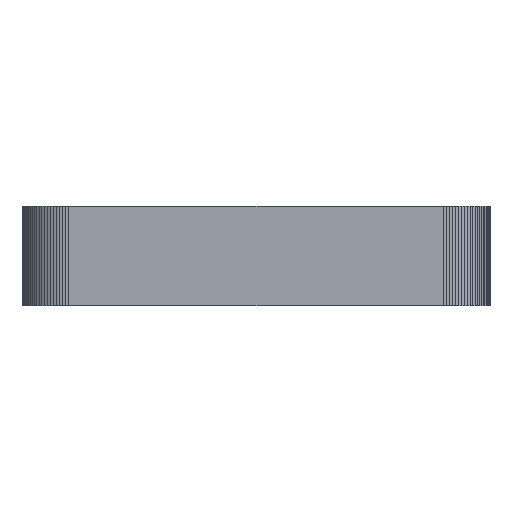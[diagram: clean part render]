
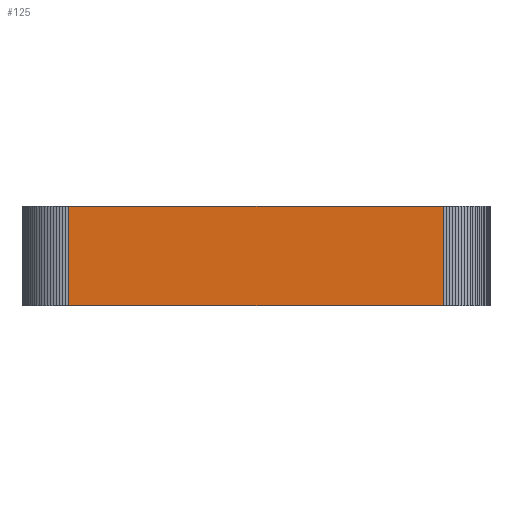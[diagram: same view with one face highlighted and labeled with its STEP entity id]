
A CAD part, front view. The second image highlights one B-rep face of the part: STEP entity #125.
In plain terms, the highlighted free-form (B-spline) face has degree [1, 1] with [2, 2] control points.
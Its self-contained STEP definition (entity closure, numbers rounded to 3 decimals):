
#21 = EDGE_CURVE('',#22,#24,#26,.T.);
#22 = VERTEX_POINT('',#23);
#23 = CARTESIAN_POINT('',(0.,-103.75,0.));
#24 = VERTEX_POINT('',#25);
#25 = CARTESIAN_POINT('',(0.,-103.75,8.));
#26 = SURFACE_CURVE('',#27,(#30,#41),.PCURVE_S1.);
#27 = B_SPLINE_CURVE_WITH_KNOTS('',1,(#28,#29),.UNSPECIFIED.,.F.,.F.,(2,
    2),(0.,314.961),.PIECEWISE_BEZIER_KNOTS.);
#28 = CARTESIAN_POINT('',(0.,-103.75,0.));
#29 = CARTESIAN_POINT('',(0.,-103.75,8.));
#30 = PCURVE('',#31,#36);
#31 = B_SPLINE_SURFACE_WITH_KNOTS('',1,1,(
    (#32,#33)
    ,(#34,#35
    )),.UNSPECIFIED.,.F.,.F.,.F.,(2,2),(2,2),(0.,10.081),(
    -314.961,0.),.PIECEWISE_BEZIER_KNOTS.);
#32 = CARTESIAN_POINT('',(0.,-103.75,8.));
#33 = CARTESIAN_POINT('',(0.,-103.75,0.));
#34 = CARTESIAN_POINT('',(-0.256,-103.741,8.));
#35 = CARTESIAN_POINT('',(-0.256,-103.741,0.));
#36 = DEFINITIONAL_REPRESENTATION('',(#37),#40);
#37 = B_SPLINE_CURVE_WITH_KNOTS('',1,(#38,#39),.UNSPECIFIED.,.F.,.F.,(2,
    2),(0.,314.961),.PIECEWISE_BEZIER_KNOTS.);
#38 = CARTESIAN_POINT('',(0.,0.));
#39 = CARTESIAN_POINT('',(0.,-314.961));
#40 = ( GEOMETRIC_REPRESENTATION_CONTEXT(2) 
PARAMETRIC_REPRESENTATION_CONTEXT() REPRESENTATION_CONTEXT('2D SPACE',''
  ) );
#41 = PCURVE('',#42,#47);
#42 = B_SPLINE_SURFACE_WITH_KNOTS('',1,1,(
    (#43,#44)
    ,(#45,#46
  )),.UNSPECIFIED.,.F.,.F.,.F.,(2,2),(2,2),(0.,1181.102),(-314.961
    ,0.),.PIECEWISE_BEZIER_KNOTS.);
#43 = CARTESIAN_POINT('',(30.,-103.75,8.)
  );
#44 = CARTESIAN_POINT('',(30.,-103.75,0.));
#45 = CARTESIAN_POINT('',(0.,-103.75,8.));
#46 = CARTESIAN_POINT('',(0.,-103.75,0.));
#47 = DEFINITIONAL_REPRESENTATION('',(#48),#51);
#48 = B_SPLINE_CURVE_WITH_KNOTS('',1,(#49,#50),.UNSPECIFIED.,.F.,.F.,(2,
    2),(0.,314.961),.PIECEWISE_BEZIER_KNOTS.);
#49 = CARTESIAN_POINT('',(1181.102,0.));
#50 = CARTESIAN_POINT('',(1181.102,-314.961));
#51 = ( GEOMETRIC_REPRESENTATION_CONTEXT(2) 
PARAMETRIC_REPRESENTATION_CONTEXT() REPRESENTATION_CONTEXT('2D SPACE',''
  ) );
#67 = B_SPLINE_SURFACE_WITH_KNOTS('',1,1,(
    (#68,#69)
    ,(#70,#71
    )),.UNSPECIFIED.,.F.,.F.,.F.,(2,2),(2,2),(-738.189,738.189),(
    -2116.142,2116.142),.PIECEWISE_BEZIER_KNOTS.);
#68 = CARTESIAN_POINT('',(33.75,-103.75,8.)
  );
#69 = CARTESIAN_POINT('',(33.75,3.75,8.)
  );
#70 = CARTESIAN_POINT('',(-3.75,-103.75,8.)
  );
#71 = CARTESIAN_POINT('',(-3.75,3.75,8.)
  );
#115 = B_SPLINE_SURFACE_WITH_KNOTS('',1,1,(
    (#116,#117)
    ,(#118,#119
    )),.UNSPECIFIED.,.F.,.F.,.F.,(2,2),(2,2),(-738.189,738.189),(
    -2116.142,2116.142),.PIECEWISE_BEZIER_KNOTS.);
#116 = CARTESIAN_POINT('',(33.75,-103.75,0.));
#117 = CARTESIAN_POINT('',(33.75,3.75,0.));
#118 = CARTESIAN_POINT('',(-3.75,-103.75,0.));
#119 = CARTESIAN_POINT('',(-3.75,3.75,0.));
#125 = ADVANCED_FACE('',(#126),#42,.T.);
#126 = FACE_BOUND('',#127,.T.);
#127 = EDGE_LOOP('',(#128,#155,#173,#174));
#128 = ORIENTED_EDGE('',*,*,#129,.T.);
#129 = EDGE_CURVE('',#130,#132,#134,.T.);
#130 = VERTEX_POINT('',#131);
#131 = CARTESIAN_POINT('',(30.,-103.75,0.));
#132 = VERTEX_POINT('',#133);
#133 = CARTESIAN_POINT('',(30.,-103.75,8.
    ));
#134 = SURFACE_CURVE('',#135,(#138,#144),.PCURVE_S1.);
#135 = B_SPLINE_CURVE_WITH_KNOTS('',1,(#136,#137),.UNSPECIFIED.,.F.,.F.,
  (2,2),(0.,314.961),.PIECEWISE_BEZIER_KNOTS.);
#136 = CARTESIAN_POINT('',(30.,-103.75,0.));
#137 = CARTESIAN_POINT('',(30.,-103.75,8.
    ));
#138 = PCURVE('',#42,#139);
#139 = DEFINITIONAL_REPRESENTATION('',(#140),#143);
#140 = B_SPLINE_CURVE_WITH_KNOTS('',1,(#141,#142),.UNSPECIFIED.,.F.,.F.,
  (2,2),(0.,314.961),.PIECEWISE_BEZIER_KNOTS.);
#141 = CARTESIAN_POINT('',(0.,0.));
#142 = CARTESIAN_POINT('',(0.,-314.961));
#143 = ( GEOMETRIC_REPRESENTATION_CONTEXT(2) 
PARAMETRIC_REPRESENTATION_CONTEXT() REPRESENTATION_CONTEXT('2D SPACE',''
  ) );
#144 = PCURVE('',#145,#150);
#145 = B_SPLINE_SURFACE_WITH_KNOTS('',1,1,(
    (#146,#147)
    ,(#148,#149
    )),.UNSPECIFIED.,.F.,.F.,.F.,(2,2),(2,2),(0.,10.081),(
    -314.961,0.),.PIECEWISE_BEZIER_KNOTS.);
#146 = CARTESIAN_POINT('',(30.256,-103.741,8.));
#147 = CARTESIAN_POINT('',(30.256,-103.741,0.));
#148 = CARTESIAN_POINT('',(30.,-103.75,8.
    ));
#149 = CARTESIAN_POINT('',(30.,-103.75,0.));
#150 = DEFINITIONAL_REPRESENTATION('',(#151),#154);
#151 = B_SPLINE_CURVE_WITH_KNOTS('',1,(#152,#153),.UNSPECIFIED.,.F.,.F.,
  (2,2),(0.,314.961),.PIECEWISE_BEZIER_KNOTS.);
#152 = CARTESIAN_POINT('',(10.081,0.));
#153 = CARTESIAN_POINT('',(10.081,-314.961));
#154 = ( GEOMETRIC_REPRESENTATION_CONTEXT(2) 
PARAMETRIC_REPRESENTATION_CONTEXT() REPRESENTATION_CONTEXT('2D SPACE',''
  ) );
#155 = ORIENTED_EDGE('',*,*,#156,.T.);
#156 = EDGE_CURVE('',#132,#24,#157,.T.);
#157 = SURFACE_CURVE('',#158,(#161,#167),.PCURVE_S1.);
#158 = B_SPLINE_CURVE_WITH_KNOTS('',1,(#159,#160),.UNSPECIFIED.,.F.,.F.,
  (2,2),(0.,1181.102),.PIECEWISE_BEZIER_KNOTS.);
#159 = CARTESIAN_POINT('',(30.,-103.75,8.
    ));
#160 = CARTESIAN_POINT('',(0.,-103.75,8.));
#161 = PCURVE('',#42,#162);
#162 = DEFINITIONAL_REPRESENTATION('',(#163),#166);
#163 = B_SPLINE_CURVE_WITH_KNOTS('',1,(#164,#165),.UNSPECIFIED.,.F.,.F.,
  (2,2),(0.,1181.102),.PIECEWISE_BEZIER_KNOTS.);
#164 = CARTESIAN_POINT('',(0.,-314.961));
#165 = CARTESIAN_POINT('',(1181.102,-314.961));
#166 = ( GEOMETRIC_REPRESENTATION_CONTEXT(2) 
PARAMETRIC_REPRESENTATION_CONTEXT() REPRESENTATION_CONTEXT('2D SPACE',''
  ) );
#167 = PCURVE('',#67,#168);
#168 = DEFINITIONAL_REPRESENTATION('',(#169),#172);
#169 = B_SPLINE_CURVE_WITH_KNOTS('',1,(#170,#171),.UNSPECIFIED.,.F.,.F.,
  (2,2),(0.,1181.102),.PIECEWISE_BEZIER_KNOTS.);
#170 = CARTESIAN_POINT('',(-590.551,-2116.142));
#171 = CARTESIAN_POINT('',(590.551,-2116.142));
#172 = ( GEOMETRIC_REPRESENTATION_CONTEXT(2) 
PARAMETRIC_REPRESENTATION_CONTEXT() REPRESENTATION_CONTEXT('2D SPACE',''
  ) );
#173 = ORIENTED_EDGE('',*,*,#21,.F.);
#174 = ORIENTED_EDGE('',*,*,#175,.F.);
#175 = EDGE_CURVE('',#130,#22,#176,.T.);
#176 = SURFACE_CURVE('',#177,(#180,#186),.PCURVE_S1.);
#177 = B_SPLINE_CURVE_WITH_KNOTS('',1,(#178,#179),.UNSPECIFIED.,.F.,.F.,
  (2,2),(0.,1181.102),.PIECEWISE_BEZIER_KNOTS.);
#178 = CARTESIAN_POINT('',(30.,-103.75,0.));
#179 = CARTESIAN_POINT('',(0.,-103.75,0.));
#180 = PCURVE('',#42,#181);
#181 = DEFINITIONAL_REPRESENTATION('',(#182),#185);
#182 = B_SPLINE_CURVE_WITH_KNOTS('',1,(#183,#184),.UNSPECIFIED.,.F.,.F.,
  (2,2),(0.,1181.102),.PIECEWISE_BEZIER_KNOTS.);
#183 = CARTESIAN_POINT('',(0.,0.));
#184 = CARTESIAN_POINT('',(1181.102,0.));
#185 = ( GEOMETRIC_REPRESENTATION_CONTEXT(2) 
PARAMETRIC_REPRESENTATION_CONTEXT() REPRESENTATION_CONTEXT('2D SPACE',''
  ) );
#186 = PCURVE('',#115,#187);
#187 = DEFINITIONAL_REPRESENTATION('',(#188),#191);
#188 = B_SPLINE_CURVE_WITH_KNOTS('',1,(#189,#190),.UNSPECIFIED.,.F.,.F.,
  (2,2),(0.,1181.102),.PIECEWISE_BEZIER_KNOTS.);
#189 = CARTESIAN_POINT('',(-590.551,-2116.142));
#190 = CARTESIAN_POINT('',(590.551,-2116.142));
#191 = ( GEOMETRIC_REPRESENTATION_CONTEXT(2) 
PARAMETRIC_REPRESENTATION_CONTEXT() REPRESENTATION_CONTEXT('2D SPACE',''
  ) );
